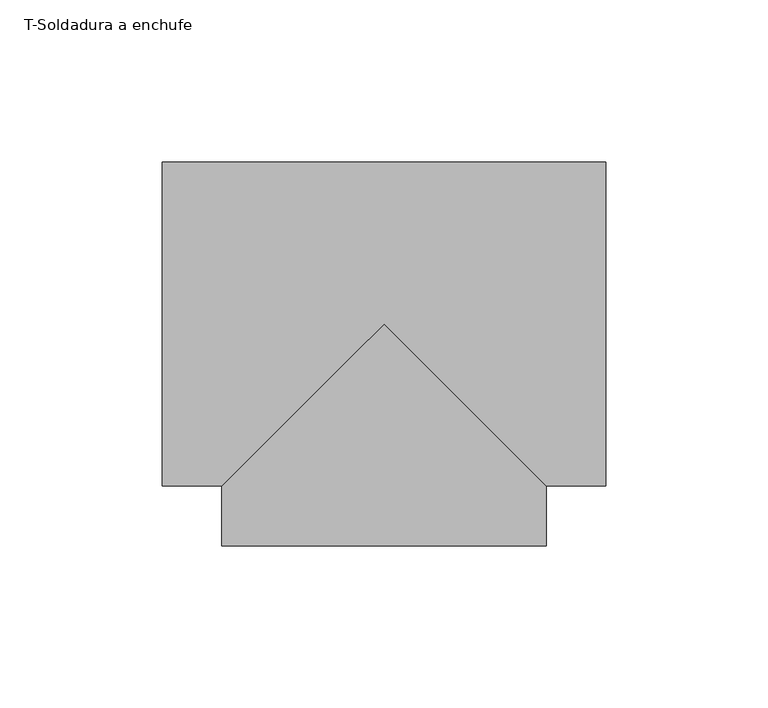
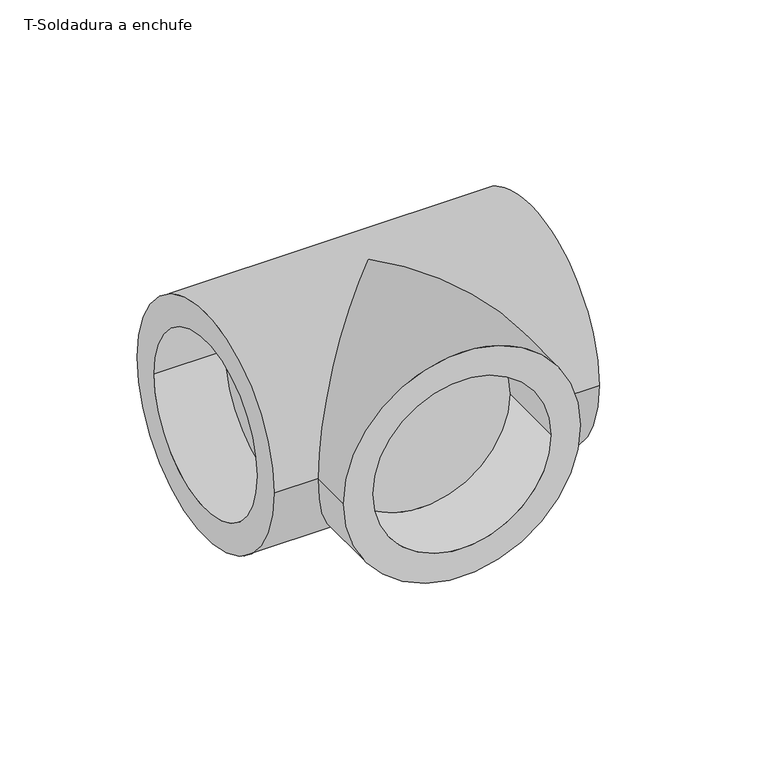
"""IFC4 building model written with IfcOpenShell, lengths in millimetres: pipe fitting geometry, T-Soldadura a enchufe : Estándar."""

from ifc_helpers import new_model, si_unit, frame, origin, place, context, project, spatial, polyline, circle_curve, ellipse_curve, source, transform, mapped, element, save
from ifc_brep_helpers import plane_surface, cylinder_surface, revolved_surface, advanced_brep


def t_soldadura_a_enchufe_ff252817(model_context):
    return source(origin(), model_context, "Body", "AdvancedBrep", [
        advanced_brep(
        [(-68.5, -50.0, 0.0), (-68.5, 50.0, 0.0), (-68.5, -37.5, 0.0), (-68.5, 37.5, 0.0), (68.5, -50.0, 0.0), (68.5, 50.0, 0.0), (68.5, -37.5, 0.0), (68.5, 37.5, 0.0), (-50.0, -50.0, 0.0), (0.0, 0.0, 50.0), (50.0, -50.0, 0.0), (0.0, 0.0, -50.0), (-50.0, -68.5, 0.0), (50.0, -68.5, 0.0), (37.5, -68.5, 0.0), (-37.5, -68.5, 0.0), (-38.5, -37.5, 0.0), (-38.5, 37.5, 0.0), (38.5, -37.5, 0.0), (38.5, 37.5, 0.0), (-37.5, -38.5, 0.0), (37.5, -38.5, 0.0)],
        [
            (0, 1, circle_curve(frame((-68.5, 0.0, 0.0), z_axis=(-1.0, 0.0, 0.0), x_axis=(0.0, 1.0, 0.0)), 50.0)),
            (1, 0, circle_curve(frame((-68.5, 0.0, 0.0), z_axis=(-1.0, 0.0, 0.0), x_axis=(0.0, 1.0, 0.0)), 50.0)),
            (2, 3, circle_curve(frame((-68.5, 0.0, 0.0), z_axis=(1.0, 0.0, 0.0), x_axis=(0.0, 1.0, 0.0)), 37.5)),
            (3, 2, circle_curve(frame((-68.5, 0.0, 0.0), z_axis=(1.0, 0.0, 0.0), x_axis=(0.0, 1.0, 0.0)), 37.5)),
            (4, 5, circle_curve(frame((68.5, 0.0, 0.0), z_axis=(1.0, 0.0, 0.0), x_axis=(0.0, 1.0, 0.0)), 50.0)),
            (5, 4, circle_curve(frame((68.5, 0.0, 0.0), z_axis=(1.0, 0.0, 0.0), x_axis=(0.0, 1.0, 0.0)), 50.0)),
            (6, 7, circle_curve(frame((68.5, 0.0, 0.0), z_axis=(-1.0, 0.0, 0.0), x_axis=(0.0, 1.0, 0.0)), 37.5)),
            (7, 6, circle_curve(frame((68.5, 0.0, 0.0), z_axis=(-1.0, 0.0, 0.0), x_axis=(0.0, 1.0, 0.0)), 37.5)),
            (0, 8),
            (8, 9, ellipse_curve(frame((0.0, 0.0, 0.0), z_axis=(-0.707106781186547, 0.7071067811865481, 0.0), x_axis=(-0.707106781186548, -0.707106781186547, 0.0)), 70.7106781, 50.0)),
            (9, 10, ellipse_curve(frame((0.0, 0.0, 0.0), z_axis=(0.707106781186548, 0.7071067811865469, 0.0), x_axis=(-0.707106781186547, 0.707106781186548, 0.0)), 70.7106781, 50.0)),
            (10, 4),
            (5, 1),
            (10, 11, ellipse_curve(frame((0.0, 0.0, 0.0), z_axis=(0.707106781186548, 0.7071067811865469, 0.0), x_axis=(-0.707106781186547, 0.707106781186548, 0.0)), 70.7106781, 50.0)),
            (11, 8, ellipse_curve(frame((0.0, 0.0, 0.0), z_axis=(-0.707106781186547, 0.7071067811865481, 0.0), x_axis=(-0.707106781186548, -0.707106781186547, 0.0)), 70.7106781, 50.0)),
            (12, 13, circle_curve(frame((0.0, -68.5, 0.0), z_axis=(0.0, -1.0, 0.0), x_axis=(1.0, 0.0, 0.0)), 50.0)),
            (13, 12, circle_curve(frame((0.0, -68.5, 0.0), z_axis=(0.0, -1.0, 0.0), x_axis=(1.0, 0.0, 0.0)), 50.0)),
            (14, 15, circle_curve(frame((0.0, -68.5, 0.0), z_axis=(0.0, 1.0, 0.0), x_axis=(1.0, 0.0, 0.0)), 37.5)),
            (15, 14, circle_curve(frame((0.0, -68.5, 0.0), z_axis=(0.0, 1.0, 0.0), x_axis=(1.0, 0.0, 0.0)), 37.5)),
            (13, 10),
            (8, 12),
            (16, 17, circle_curve(frame((-38.5, 0.0, 0.0), z_axis=(-1.0, 0.0, 0.0), x_axis=(0.0, 1.0, 0.0)), 37.5)),
            (17, 16, circle_curve(frame((-38.5, 0.0, 0.0), z_axis=(-1.0, 0.0, 0.0), x_axis=(0.0, 1.0, 0.0)), 37.5)),
            (17, 3),
            (2, 16),
            (18, 19, circle_curve(frame((38.5, 0.0, 0.0), z_axis=(1.0, 0.0, 0.0), x_axis=(0.0, 1.0, 0.0)), 37.5)),
            (19, 18, circle_curve(frame((38.5, 0.0, 0.0), z_axis=(1.0, 0.0, 0.0), x_axis=(0.0, 1.0, 0.0)), 37.5)),
            (19, 7),
            (6, 18),
            (20, 21, circle_curve(frame((0.0, -38.5, 0.0), z_axis=(0.0, -1.0, 0.0), x_axis=(1.0, 0.0, 0.0)), 37.5)),
            (21, 20, circle_curve(frame((0.0, -38.5, 0.0), z_axis=(0.0, -1.0, 0.0), x_axis=(1.0, 0.0, 0.0)), 37.5)),
            (20, 15),
            (14, 21),
        ],
        [
            plane_surface(frame((-68.5, 0.0, 0.0), z_axis=(-1.0, 0.0, 0.0), x_axis=(0.0, 0.0, 1.0))),
            plane_surface(frame((68.5, 0.0, 0.0), z_axis=(1.0, 0.0, 0.0), x_axis=(0.0, 0.0, 1.0))),
            cylinder_surface(frame((-68.5, 0.0, 0.0), z_axis=(-1.0, 0.0, 0.0), x_axis=(0.0, 1.0, 0.0)), 50.0),
            plane_surface(frame((0.0, -68.5, 0.0), z_axis=(0.0, -1.0, 0.0), x_axis=(0.0, 0.0, 1.0))),
            cylinder_surface(frame((0.0, 0.0, 0.0), z_axis=(0.0, 1.0, 0.0), x_axis=(1.0, 0.0, 0.0)), 50.0),
            plane_surface(frame((-38.5, 37.5, 0.0), z_axis=(-1.0, 0.0, 0.0), x_axis=(0.0, 0.0, 1.0))),
            revolved_surface(polyline([(-38.5, 37.5, 0.0), (-68.5, 37.5, 0.0)]), (-68.5, 0.0, 0.0), (1.0, 0.0, 0.0)),
            plane_surface(frame((38.5, 37.5, 0.0), z_axis=(1.0, 0.0, 0.0), x_axis=(0.0, 0.0, -1.0))),
            revolved_surface(polyline([(38.5, 37.5, 0.0), (68.5, 37.5, 0.0)]), (68.5, 0.0, 0.0), (-1.0, 0.0, 0.0)),
            plane_surface(frame((37.5, -38.5, 0.0), z_axis=(0.0, -1.0, 0.0), x_axis=(0.0, 0.0, -1.0))),
            revolved_surface(polyline([(37.5, -68.5, 0.0), (37.5, -38.5, 0.0)]), (0.0, -38.5, 0.0), (0.0, -1.0, 0.0)),
        ],
        [
            (0, [[1, 2], [3, 4]]),
            (1, [[5, 6], [7, 8]]),
            (2, [[-1, 9, 10, 11, 12, -6, 13]]),
            (2, [[-2, -13, -5, -12, 14, 15, -9]]),
            (3, [[16, 17], [18, 19]]),
            (4, [[-17, 20, -11, -10, 21]]),
            (4, [[-16, -21, -15, -14, -20]]),
            (5, [[22, 23]]),
            (6, [[-23, 24, -3, 25]]),
            (6, [[-22, -25, -4, -24]]),
            (7, [[26, 27]]),
            (8, [[-27, 28, -7, 29]]),
            (8, [[-26, -29, -8, -28]]),
            (9, [[30, 31]]),
            (10, [[-30, 32, -18, 33]]),
            (10, [[-31, -33, -19, -32]]),
        ],
    ),
    ])


if __name__ == "__main__":
    model = new_model("IFC4")
    model_context = context("Model", 3, world=origin())
    ifc_project = project(units=[si_unit("LENGTHUNIT", "METRE", prefix="MILLI")], contexts=[model_context])
    site = spatial("IfcSite", under=ifc_project)
    building = spatial("IfcBuilding", under=site)
    placement = place(None, origin())
    t_soldadura_a_enchufe_shape = t_soldadura_a_enchufe_ff252817(model_context)
    element("IfcPipeFitting", 1, ObjectType="T-Soldadura a enchufe : Estándar", at=placement, inside=building, context=model_context, shape_type="MappedRepresentation", body=[
        mapped(t_soldadura_a_enchufe_shape, transform((0.0, 0.0, 0.0), x_axis=(1.0, 0.0, 0.0), y_axis=(0.0, 1.0, 0.0), z_axis=(0.0, 0.0, 1.0))),
    ])
    save(model, "model.ifc")
